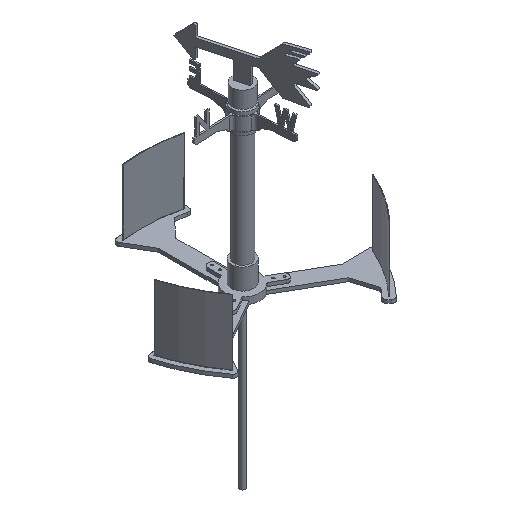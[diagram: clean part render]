
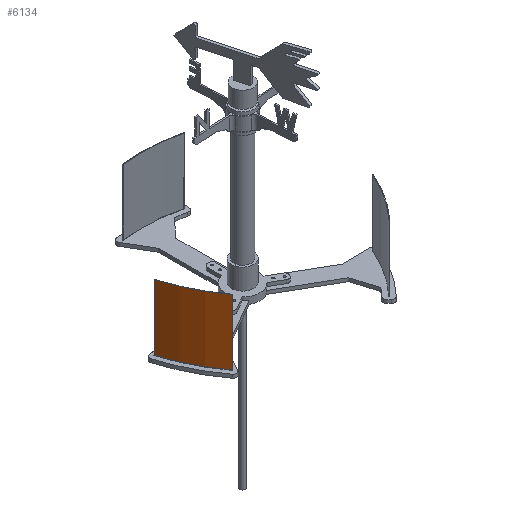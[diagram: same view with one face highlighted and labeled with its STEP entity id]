
A CAD part, isometric view. The second image highlights one B-rep face of the part: STEP entity #6134.
In plain terms, the highlighted cylindrical face has radius 242.136 mm (diameter 484.272 mm), a partial arc.
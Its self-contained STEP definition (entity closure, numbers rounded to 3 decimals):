
#51 = AXIS2_PLACEMENT_3D ( 'NONE', #774, #7321, #5665 ) ;
#137 = CARTESIAN_POINT ( 'NONE',  ( -42.049, 2.02, 0. ) ) ;
#721 = VERTEX_POINT ( 'NONE', #1426 ) ;
#774 = CARTESIAN_POINT ( 'NONE',  ( -13.838, -238.467, 100. ) ) ;
#1031 = CARTESIAN_POINT ( 'NONE',  ( 42.095, -2.88, 100. ) ) ;
#1050 = CARTESIAN_POINT ( 'NONE',  ( -13.838, -238.467, 100. ) ) ;
#1110 = LINE ( 'NONE', #4683, #9812 ) ;
#1116 = CIRCLE ( 'NONE', #2445, 242.136 ) ;
#1426 = CARTESIAN_POINT ( 'NONE',  ( -42.049, 2.02, 100. ) ) ;
#1428 = LINE ( 'NONE', #1031, #7691 ) ;
#1686 = CARTESIAN_POINT ( 'NONE',  ( 42.095, -2.88, 0. ) ) ;
#1867 = DIRECTION ( 'NONE',  ( 1., 0., 0. ) ) ;
#1909 = EDGE_LOOP ( 'NONE', ( #1995, #3049, #8256, #3782 ) ) ;
#1995 = ORIENTED_EDGE ( 'NONE', *, *, #8703, .T. ) ;
#2445 = AXIS2_PLACEMENT_3D ( 'NONE', #4064, #9808, #4888 ) ;
#2745 = EDGE_CURVE ( 'NONE', #7599, #5532, #1428, .T. ) ;
#3049 = ORIENTED_EDGE ( 'NONE', *, *, #9118, .F. ) ;
#3099 = FACE_OUTER_BOUND ( 'NONE', #1909, .T. ) ;
#3782 = ORIENTED_EDGE ( 'NONE', *, *, #2745, .T. ) ;
#3849 = DIRECTION ( 'NONE',  ( 0., 0., -1. ) ) ;
#4064 = CARTESIAN_POINT ( 'NONE',  ( -13.838, -238.467, 0. ) ) ;
#4073 = CIRCLE ( 'NONE', #8179, 242.136 ) ;
#4683 = CARTESIAN_POINT ( 'NONE',  ( -42.049, 2.02, 100. ) ) ;
#4888 = DIRECTION ( 'NONE',  ( 1., 0., 0. ) ) ;
#5532 = VERTEX_POINT ( 'NONE', #1686 ) ;
#5665 = DIRECTION ( 'NONE',  ( -1., 0., 0. ) ) ;
#6134 = ADVANCED_FACE ( 'NONE', ( #3099 ), #6425, .T. ) ;
#6425 = CYLINDRICAL_SURFACE ( 'NONE', #51, 242.136 ) ;
#6653 = CARTESIAN_POINT ( 'NONE',  ( 42.095, -2.88, 100. ) ) ;
#6777 = DIRECTION ( 'NONE',  ( 0., 0., 1. ) ) ;
#7227 = EDGE_CURVE ( 'NONE', #7599, #721, #4073, .T. ) ;
#7321 = DIRECTION ( 'NONE',  ( 0., 0., -1. ) ) ;
#7599 = VERTEX_POINT ( 'NONE', #6653 ) ;
#7607 = DIRECTION ( 'NONE',  ( 0., 0., -1. ) ) ;
#7691 = VECTOR ( 'NONE', #7607, 1000. ) ;
#8179 = AXIS2_PLACEMENT_3D ( 'NONE', #1050, #6777, #1867 ) ;
#8256 = ORIENTED_EDGE ( 'NONE', *, *, #7227, .F. ) ;
#8703 = EDGE_CURVE ( 'NONE', #5532, #9394, #1116, .T. ) ;
#9118 = EDGE_CURVE ( 'NONE', #721, #9394, #1110, .T. ) ;
#9394 = VERTEX_POINT ( 'NONE', #137 ) ;
#9808 = DIRECTION ( 'NONE',  ( 0., 0., 1. ) ) ;
#9812 = VECTOR ( 'NONE', #3849, 1000. ) ;
